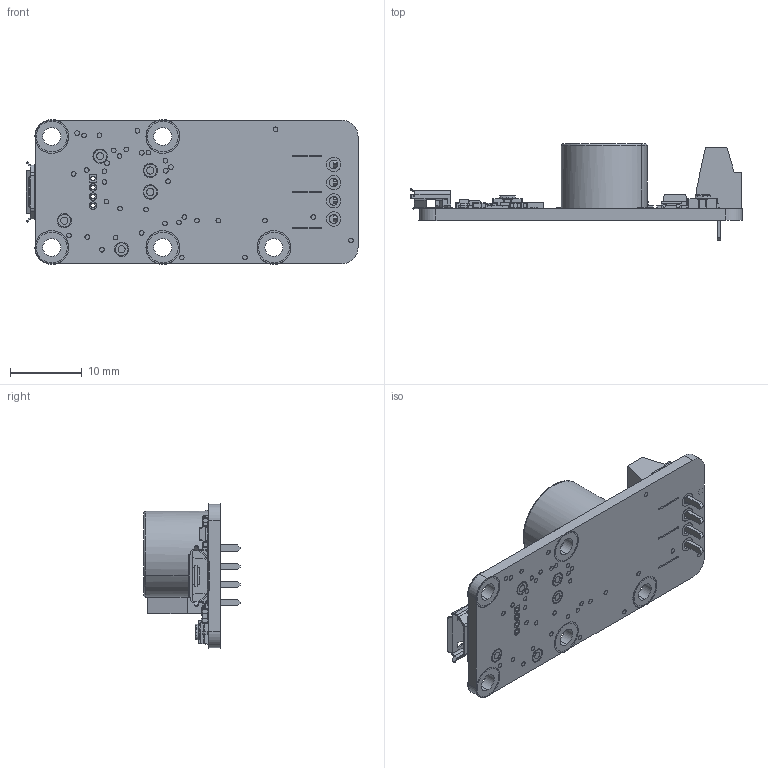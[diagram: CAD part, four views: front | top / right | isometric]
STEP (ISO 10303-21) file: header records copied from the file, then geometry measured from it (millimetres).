
FILE_DESCRIPTION (( 'STEP AP214' ), '1' );
FILE_NAME ('yocto-buzzer.STEP', '2015-02-16T14:25:33', ( 'martinm' ), ( '' ), 'SwSTEP 2.0', 'SolidWorks 2008', '' );
FILE_SCHEMA (( 'AUTOMOTIVE_DESIGN' ));
Length unit declared in the file: millimetre
Products named in the file (31): PCB_Défaut; C1; C2; C6; C16; C17; C18; C19; D2_Défaut; P2; PVSS_Défaut; R1; R2; R3; R4; R5; R12; R17; R18; R19; R20; REG1; SPK1_Défaut; SWIN2; T1; T9; U1; USB1; YLED; sens1; yocto-buzzer
Assembly tree (45 placements, depth 2):
  PVSS_Défaut
  yocto-buzzer
    R2
    sens1
    C6  x4
    C19
    R19  x4
    SPK1_Défaut
    YLED
    PCB_Défaut
    D2_Défaut  x2
    R1
    C1
    R20  x3
    R17  x2
    USB1
    C16  x2
    R18
    T9  x2
    C2
    R5
    P2
    R12  x3
    C18
    T1
    R4
    REG1
    R3
    SWIN2  x3
    U1
    C17
Bounding box: 46.35 x 13.45 x 20.2 mm (x, y, z)
Volume: 2548.8 mm3; surface area: 4434.2 mm2
Topology: 67 solids, 69 shells, 5557 faces, 14291 edges, 9286 vertices
Faces by surface type: plane 3698, cylinder 1295, bspline 448, sphere 88, torus 28
Entity records: 186900 total; most frequent: CARTESIAN_POINT 42364, ORIENTED_EDGE 21814, DIRECTION 20429, EDGE_CURVE 10907, VECTOR 8017, LINE 8017, VERTEX_POINT 7156, AXIS2_PLACEMENT_3D 6206
